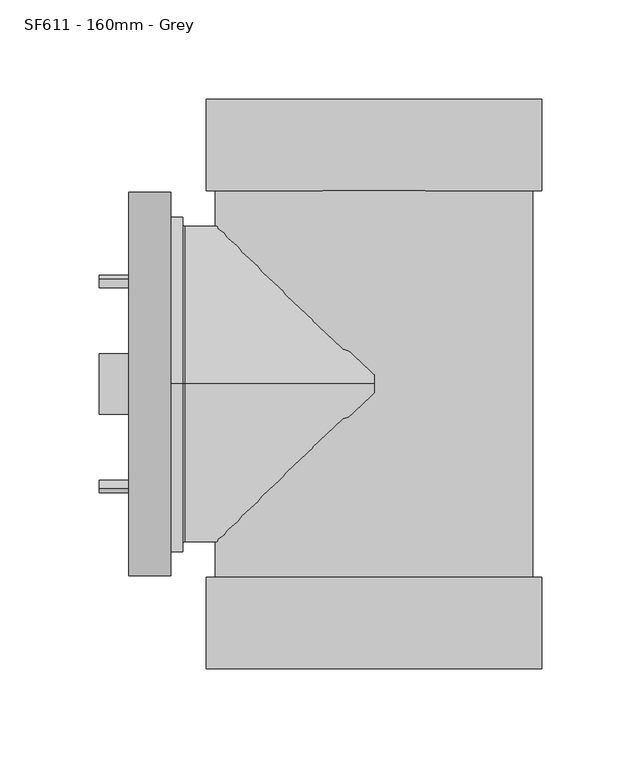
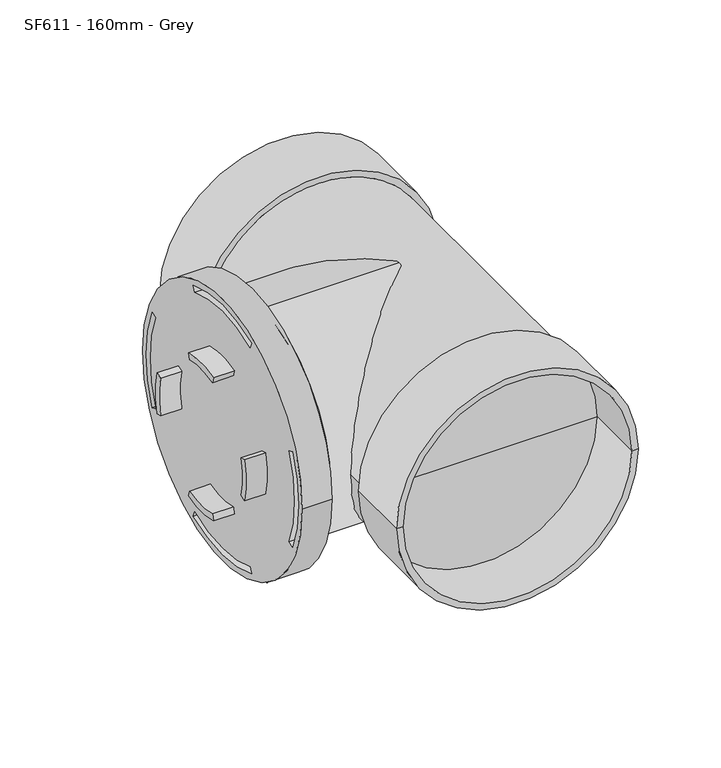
"""IFC4 building model written with IfcOpenShell, lengths in millimetres: pipe fitting geometry, MarleyPlumbingAndDrainage_PipeFitting_AccessPipeDoubleSolvent : SF611 - 160mm - Grey."""

from ifc_helpers import new_model, si_unit, point, frame, origin, origin_2d, place, context, project, spatial, polyline, circle_curve, ellipse_curve, trimmed, segment, composite_curve, outline, extrude, source, transform, mapped, element, save
from ifc_brep_helpers import plane_surface, cylinder_surface, revolved_surface, advanced_brep


def sf611_160mm_grey_c065f74c(model_context):
    return source(origin(), model_context, "Body", "SolidModel", [
        advanced_brep(
        [(-125.0667881, 96.75, 0.0), (-125.0667881, -96.75, 0.0), (-125.0667881, 35.3025466, -85.2278869), (-125.0667881, 33.5804712, -81.070429), (-125.0667881, -33.5804712, -81.070429), (-125.0667881, -35.3025466, -85.2278869), (-125.0667881, -85.2278869, -35.3025466), (-125.0667881, -81.070429, -33.5804712), (-125.0667881, -81.070429, 33.5804712), (-125.0667881, -85.2278869, 35.3025466), (-125.0667881, 81.070429, 33.5804712), (-125.0667881, 81.070429, -33.5804712), (-125.0667881, 85.2278869, -35.3025466), (-125.0667881, 85.2278869, 35.3025466), (-125.0667881, 33.5804712, 81.070429), (-125.0667881, 35.3025466, 85.2278869), (-125.0667881, -35.3025466, 85.2278869), (-125.0667881, -33.5804712, 81.070429), (-104.0667881, 96.75, 0.0), (-104.0667881, -96.75, 0.0), (-104.0667881, 0.0, -84.5), (-104.0667881, 0.0, 84.5), (-118.3600703, 33.5804712, -81.070429), (-118.3600703, 35.3025466, -85.2278869), (-118.3600703, -35.3025466, -85.2278869), (-118.3600703, -33.5804712, -81.070429), (-118.3600703, -81.070429, -33.5804712), (-118.3600703, -85.2278869, -35.3025466), (-118.3600703, -85.2278869, 35.3025466), (-118.3600703, -81.070429, 33.5804712), (-118.3600703, 81.070429, -33.5804712), (-118.3600703, 81.070429, 33.5804712), (-118.3600703, 85.2278869, 35.3025466), (-118.3600703, 85.2278869, -35.3025466), (-118.3600703, 35.3025466, 85.2278869), (-118.3600703, 33.5804712, 81.070429), (-118.3600703, -33.5804712, 81.070429), (-118.3600703, -35.3025466, 85.2278869), (-98.0667881, 0.0, -84.5), (-98.0667881, 0.0, 84.5), (-98.0667881, 0.0, -81.0), (-98.0667881, 0.0, 81.0), (-97.0667881, 0.0, -80.0), (-97.0667881, 0.0, 80.0), (-1.5667881, 0.0, -80.0), (-1.5667881, 0.0, 80.0), (-1.5667881, 0.0, 0.0)],
        [
            (0, 1, circle_curve(frame((-125.0667881, 0.0, 0.0), z_axis=(-1.0, 0.0, 0.0), x_axis=(0.0, -1.0000000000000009, 0.0)), 96.75)),
            (1, 0, circle_curve(frame((-125.0667881, 0.0, 0.0), z_axis=(-1.0, 0.0, 0.0), x_axis=(0.0, -1.0000000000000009, 0.0)), 96.75)),
            (2, 3),
            (3, 4, circle_curve(frame((-125.0667881, 0.0, 0.0), z_axis=(-1.0, 0.0, 0.0), x_axis=(0.0, -1.0000000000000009, 0.0)), 87.75)),
            (4, 5),
            (5, 2, circle_curve(frame((-125.0667881, 0.0, 0.0), z_axis=(1.0, 0.0, 0.0), x_axis=(0.0, -1.0000000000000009, 0.0)), 92.25)),
            (6, 7),
            (7, 8, circle_curve(frame((-125.0667881, 0.0, 0.0), z_axis=(-1.0, 0.0, 0.0), x_axis=(0.0, -1.0000000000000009, 0.0)), 87.75)),
            (8, 9),
            (9, 6, circle_curve(frame((-125.0667881, 0.0, 0.0), z_axis=(1.0, 0.0, 0.0), x_axis=(0.0, -1.0000000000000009, 0.0)), 92.25)),
            (10, 11, circle_curve(frame((-125.0667881, 0.0, 0.0), z_axis=(-1.0, 0.0, 0.0), x_axis=(0.0, -1.0000000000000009, 0.0)), 87.75)),
            (11, 12),
            (12, 13, circle_curve(frame((-125.0667881, 0.0, 0.0), z_axis=(1.0, 0.0, 0.0), x_axis=(0.0, -1.0000000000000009, 0.0)), 92.25)),
            (13, 10),
            (14, 15),
            (15, 16, circle_curve(frame((-125.0667881, 0.0, 0.0), z_axis=(1.0, 0.0, 0.0), x_axis=(0.0, -1.0000000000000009, 0.0)), 92.25)),
            (16, 17),
            (17, 14, circle_curve(frame((-125.0667881, 0.0, 0.0), z_axis=(-1.0, 0.0, 0.0), x_axis=(0.0, -1.0000000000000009, 0.0)), 87.75)),
            (18, 19, circle_curve(frame((-104.0667881, 0.0, 0.0), z_axis=(1.0, 0.0, 0.0), x_axis=(0.0, -1.0000000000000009, 0.0)), 96.75)),
            (19, 18, circle_curve(frame((-104.0667881, 0.0, 0.0), z_axis=(1.0, 0.0, 0.0), x_axis=(0.0, -1.0000000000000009, 0.0)), 96.75)),
            (20, 21, circle_curve(frame((-104.0667881, 0.0, 0.0), z_axis=(-1.0, 0.0, 0.0), x_axis=(0.0, 0.0, 1.0000000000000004)), 84.5)),
            (21, 20, circle_curve(frame((-104.0667881, 0.0, 0.0), z_axis=(-1.0, 0.0, 0.0), x_axis=(0.0, 0.0, 1.0000000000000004)), 84.5)),
            (0, 18),
            (19, 1),
            (22, 23),
            (23, 24, circle_curve(frame((-118.3600703, 0.0, 0.0), z_axis=(-1.0, 0.0, 0.0), x_axis=(0.0, -1.0000000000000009, 0.0)), 92.25)),
            (24, 25),
            (25, 22, circle_curve(frame((-118.3600703, 0.0, 0.0), z_axis=(1.0, 0.0, 0.0), x_axis=(0.0, -1.0000000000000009, 0.0)), 87.75)),
            (26, 27),
            (27, 28, circle_curve(frame((-118.3600703, 0.0, 0.0), z_axis=(-1.0, 0.0, 0.0), x_axis=(0.0, -1.0000000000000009, 0.0)), 92.25)),
            (28, 29),
            (29, 26, circle_curve(frame((-118.3600703, 0.0, 0.0), z_axis=(1.0, 0.0, 0.0), x_axis=(0.0, -1.0000000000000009, 0.0)), 87.75)),
            (30, 31, circle_curve(frame((-118.3600703, 0.0, 0.0), z_axis=(1.0, 0.0, 0.0), x_axis=(0.0, -1.0000000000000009, 0.0)), 87.75)),
            (31, 32),
            (32, 33, circle_curve(frame((-118.3600703, 0.0, 0.0), z_axis=(-1.0, 0.0, 0.0), x_axis=(0.0, -1.0000000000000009, 0.0)), 92.25)),
            (33, 30),
            (34, 35),
            (35, 36, circle_curve(frame((-118.3600703, 0.0, 0.0), z_axis=(1.0, 0.0, 0.0), x_axis=(0.0, -1.0000000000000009, 0.0)), 87.75)),
            (36, 37),
            (37, 34, circle_curve(frame((-118.3600703, 0.0, 0.0), z_axis=(-1.0, 0.0, 0.0), x_axis=(0.0, -1.0000000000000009, 0.0)), 92.25)),
            (22, 3),
            (2, 23),
            (5, 24),
            (4, 25),
            (26, 7),
            (6, 27),
            (9, 28),
            (8, 29),
            (30, 11),
            (10, 31),
            (13, 32),
            (12, 33),
            (34, 15),
            (14, 35),
            (17, 36),
            (16, 37),
            (38, 39, circle_curve(frame((-98.0667881, 0.0, 0.0), z_axis=(-1.0, 0.0, 0.0), x_axis=(0.0, 0.0, 1.0000000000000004)), 84.5)),
            (39, 21),
            (20, 38),
            (39, 38, circle_curve(frame((-98.0667881, 0.0, 0.0), z_axis=(-1.0, 0.0, 0.0), x_axis=(0.0, 0.0, 1.0000000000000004)), 84.5)),
            (38, 40),
            (40, 41, circle_curve(frame((-98.0667881, 0.0, 0.0), z_axis=(-1.0, 0.0, 0.0), x_axis=(0.0, 0.0, 1.0000000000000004)), 81.0)),
            (41, 39),
            (41, 40, circle_curve(frame((-98.0667881, 0.0, 0.0), z_axis=(-1.0, 0.0, 0.0), x_axis=(0.0, 0.0, 1.0000000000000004)), 81.0)),
            (40, 42, circle_curve(frame((-97.0667881, 0.0, -81.0), z_axis=(0.0, 1.0000000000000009, 0.0), x_axis=(-1.0000000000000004, 0.0, 0.0)), 1.0)),
            (42, 43, circle_curve(frame((-97.0667881, 0.0, 0.0), z_axis=(-1.0, 0.0, 0.0), x_axis=(0.0, 0.0, 1.0000000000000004)), 80.0)),
            (43, 41, circle_curve(frame((-97.0667881, 0.0, 81.0), z_axis=(0.0, 1.0000000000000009, 0.0), x_axis=(-1.0000000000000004, 0.0, 0.0)), 1.0)),
            (43, 42, circle_curve(frame((-97.0667881, 0.0, 0.0), z_axis=(-1.0, 0.0, 0.0), x_axis=(0.0, 0.0, 1.0000000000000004)), 80.0)),
            (42, 44),
            (44, 45, circle_curve(frame((-1.5667881, 0.0, 0.0), z_axis=(-1.0, 0.0, 0.0), x_axis=(0.0, 0.0, 1.0000000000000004)), 80.0)),
            (45, 43),
            (45, 44, circle_curve(frame((-1.5667881, 0.0, 0.0), z_axis=(-1.0, 0.0, 0.0), x_axis=(0.0, 0.0, 1.0000000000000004)), 80.0)),
            (44, 46),
            (46, 45),
        ],
        [
            plane_surface(frame((-125.0667881, -96.75, 0.0), z_axis=(-1.0, 0.0, 0.0), x_axis=(0.0, 0.0, 1.0))),
            plane_surface(frame((-104.0667881, -96.75, 0.0), z_axis=(1.0, 0.0, 0.0), x_axis=(0.0, 0.0, -1.0))),
            cylinder_surface(frame((-104.0667881, 0.0, 0.0), z_axis=(-1.0000000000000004, 0.0, 0.0), x_axis=(0.0, -1.0000000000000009, 0.0)), 96.75),
            plane_surface(frame((-118.3600703, 35.3025466, -85.2278869), z_axis=(-1.0, 0.0, 0.0), x_axis=(0.0, -0.3826834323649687, 0.923879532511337))),
            plane_surface(frame((-125.0667881, 33.5804712, -81.070429), z_axis=(0.0, -0.923879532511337, -0.3826834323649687), x_axis=(1.0, 0.0, 0.0))),
            revolved_surface(polyline([(-125.0667881, -92.25000000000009, 0.0), (-118.3600703, -92.25000000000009, 0.0)]), (-118.3600703, 0.0, 0.0), (-1.0000000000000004, 0.0, 0.0)),
            plane_surface(frame((-125.0667881, -35.3025466, -85.2278869), z_axis=(0.0, 0.923879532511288, -0.38268343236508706), x_axis=(1.0, 0.0, 0.0))),
            cylinder_surface(frame((-118.3600703, 0.0, 0.0), z_axis=(1.0000000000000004, 0.0, 0.0), x_axis=(0.0, -1.0000000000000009, 0.0)), 87.75),
            plane_surface(frame((-125.0667881, -81.070429, -33.5804712), z_axis=(0.0, -0.3826834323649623, 0.9238795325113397), x_axis=(1.0, 0.0, 0.0))),
            revolved_surface(polyline([(-125.06678810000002, -92.25000000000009, 0.0), (-118.36007030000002, -92.25000000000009, 0.0)]), (-104.0667881, 0.0, 0.0), (-1.0000000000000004, 0.0, 0.0)),
            plane_surface(frame((-125.0667881, -85.2278869, 35.3025466), z_axis=(0.0, -0.3826834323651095, -0.9238795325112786), x_axis=(1.0, 0.0, 0.0))),
            cylinder_surface(frame((-104.0667881, 0.0, 0.0), z_axis=(1.0000000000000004, 0.0, 0.0), x_axis=(0.0, -1.0000000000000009, 0.0)), 87.75),
            plane_surface(frame((-125.0667881, 81.070429, 33.5804712), z_axis=(0.0, 0.38268343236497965, -0.9238795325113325), x_axis=(1.0, 0.0, 0.0))),
            plane_surface(frame((-125.0667881, 85.2278869, -35.3025466), z_axis=(0.0, 0.3826834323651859, 0.923879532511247), x_axis=(1.0, 0.0, 0.0))),
            plane_surface(frame((-125.0667881, 35.3025466, 85.2278869), z_axis=(0.0, -0.923879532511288, 0.38268343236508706), x_axis=(1.0, 0.0, 0.0))),
            plane_surface(frame((-125.0667881, -33.5804712, 81.070429), z_axis=(0.0, 0.9238795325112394, 0.38268343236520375), x_axis=(1.0, 0.0, 0.0))),
            cylinder_surface(frame((1156.7773579, 0.0, 0.0), z_axis=(1.0000000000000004, 0.0, 0.0), x_axis=(0.0, 0.0, 1.0000000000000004)), 84.5),
            plane_surface(frame((-98.0667881, 0.0, 0.0), z_axis=(1.0, 0.0, 0.0), x_axis=(0.0, 0.0, 1.0))),
            revolved_surface(trimmed(ellipse_curve(frame((-97.0667881, 0.0, 81.0), z_axis=(0.0, -1.0000000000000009, 0.0), x_axis=(-1.0000000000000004, 0.0, 0.0)), 1.0, 1.0), [point((-98.0667881, 0.0, 81.0))], [point((-97.0667881, 0.0, 80.0))], True, "CARTESIAN"), (1156.7773579, 0.0, 0.0), (1.0000000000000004, 0.0, 0.0)),
            cylinder_surface(frame((1156.7773579, 0.0, 0.0), z_axis=(1.0000000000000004, 0.0, 0.0), x_axis=(0.0, 0.0, 1.0000000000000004)), 80.0),
            plane_surface(frame((-1.5667881, 0.0, 0.0), z_axis=(1.0, 0.0, 0.0), x_axis=(0.0, 0.0, 1.0))),
        ],
        [
            (0, [[1, 2], [3, 4, 5, 6], [7, 8, 9, 10], [11, 12, 13, 14], [15, 16, 17, 18]]),
            (1, [[19, 20], [21, 22]]),
            (2, [[-1, 23, -20, 24]]),
            (2, [[-2, -24, -19, -23]]),
            (3, [[25, 26, 27, 28]]),
            (3, [[29, 30, 31, 32]]),
            (3, [[33, 34, 35, 36]]),
            (3, [[37, 38, 39, 40]]),
            (4, [[-25, 41, -3, 42]]),
            (5, [[-26, -42, -6, 43]]),
            (6, [[-27, -43, -5, 44]]),
            (7, [[-28, -44, -4, -41]]),
            (8, [[-29, 45, -7, 46]]),
            (9, [[-30, -46, -10, 47]]),
            (10, [[-31, -47, -9, 48]]),
            (11, [[-32, -48, -8, -45]]),
            (11, [[-33, 49, -11, 50]]),
            (12, [[-34, -50, -14, 51]]),
            (9, [[-35, -51, -13, 52]]),
            (13, [[-36, -52, -12, -49]]),
            (14, [[-37, 53, -15, 54]]),
            (11, [[-38, -54, -18, 55]]),
            (15, [[-39, -55, -17, 56]]),
            (9, [[-40, -56, -16, -53]]),
            (16, [[57, 58, -21, 59]]),
            (16, [[-58, 60, -59, -22]]),
            (17, [[-57, 61, 62, 63]]),
            (17, [[-60, -63, 64, -61]]),
            (18, [[-62, 65, 66, 67]]),
            (18, [[-64, -67, 68, -65]]),
            (19, [[-66, 69, 70, 71]]),
            (19, [[-68, -71, 72, -69]]),
            (20, [[-70, 73, 74]]),
            (20, [[-72, -74, -73]]),
        ],
    ),
        extrude(outline(composite_curve([segment(polyline([(-13.9196865, 48.5437156), (-15.1600546, 52.8693933)]), True, "CONTINUOUS"), segment(trimmed(circle_curve(origin_2d(), 55.0), [point((-15.1600546, 52.8693933))], [point((15.1600546, 52.8693933))], False, "CARTESIAN"), True, "CONTINUOUS"), segment(polyline([(15.1600546, 52.8693933), (13.9196865, 48.5437156)]), True, "CONTINUOUS"), segment(trimmed(circle_curve(origin_2d(), 50.5), [point((13.9196865, 48.5437156))], [point((-13.9196865, 48.5437156))], True, "CARTESIAN"), True, "CONTINUOUS")], self_intersect=False)), frame((-140.0667881, 0.0, 0.0), z_axis=(1.0, 0.0, 0.0), x_axis=(0.0, 1.0, 0.0)), (0.0, 0.0, 1.0), 15.0),
        extrude(outline(composite_curve([segment(polyline([(48.5437156, 13.9196865), (52.8693933, 15.1600546)]), True, "CONTINUOUS"), segment(trimmed(circle_curve(origin_2d(), 55.0), [point((52.8693933, 15.1600546))], [point((52.8693933, -15.1600546))], False, "CARTESIAN"), True, "CONTINUOUS"), segment(polyline([(52.8693933, -15.1600546), (48.5437156, -13.9196865)]), True, "CONTINUOUS"), segment(trimmed(circle_curve(origin_2d(), 50.5), [point((48.5437156, -13.9196865))], [point((48.5437156, 13.9196865))], True, "CARTESIAN"), True, "CONTINUOUS")], self_intersect=False)), frame((-140.0667881, 0.0, 0.0), z_axis=(1.0, 0.0, 0.0), x_axis=(0.0, 1.0, 0.0)), (0.0, 0.0, 1.0), 15.0),
        extrude(outline(composite_curve([segment(trimmed(circle_curve(origin_2d(), 50.5), [point((-48.5437156, 13.9196865))], [point((-48.5437156, -13.9196865))], True, "CARTESIAN"), True, "CONTINUOUS"), segment(polyline([(-48.5437156, -13.9196865), (-52.8693933, -15.1600546)]), True, "CONTINUOUS"), segment(trimmed(circle_curve(origin_2d(), 55.0), [point((-52.8693933, -15.1600546))], [point((-52.8693933, 15.1600546))], False, "CARTESIAN"), True, "CONTINUOUS"), segment(polyline([(-52.8693933, 15.1600546), (-48.5437156, 13.9196865)]), True, "CONTINUOUS")], self_intersect=False)), frame((-140.0667881, 0.0, 0.0), z_axis=(1.0, 0.0, 0.0), x_axis=(0.0, 1.0, 0.0)), (0.0, 0.0, 1.0), 15.0),
        extrude(outline(composite_curve([segment(polyline([(-15.1600546, -52.8693933), (-13.9196865, -48.5437156)]), True, "CONTINUOUS"), segment(trimmed(circle_curve(origin_2d(), 50.5), [point((-13.9196865, -48.5437156))], [point((13.9196865, -48.5437156))], True, "CARTESIAN"), True, "CONTINUOUS"), segment(polyline([(13.9196865, -48.5437156), (15.1600546, -52.8693933)]), True, "CONTINUOUS"), segment(trimmed(circle_curve(origin_2d(), 55.0), [point((15.1600546, -52.8693933))], [point((-15.1600546, -52.8693933))], False, "CARTESIAN"), True, "CONTINUOUS")], self_intersect=False)), frame((-140.0667881, 0.0, 0.0), z_axis=(1.0, 0.0, 0.0), x_axis=(0.0, 1.0, 0.0)), (0.0, 0.0, 1.0), 15.0),
        advanced_brep(
        [(82.9332119, 97.5, 0.0), (-86.0667881, 97.5, 0.0), (-86.0667881, 143.5, 0.0), (82.9332119, 143.5, 0.0), (78.4332119, 97.5, 0.0), (-81.5667881, 97.5, 0.0), (78.4332119, -97.5, 0.0), (-81.5667881, -97.5, 0.0), (82.9332119, -97.5, 0.0), (-86.0667881, -97.5, 0.0), (82.9332119, -143.5, 0.0), (-86.0667881, -143.5, 0.0), (78.4332119, -143.5, 0.0), (-81.5667881, -143.5, 0.0), (-81.5667881, 143.5, 0.0), (78.4332119, 143.5, 0.0), (78.4332119, -102.0, 0.0), (-81.5667881, -102.0, 0.0), (-1.5667881, -102.0, 0.0), (78.4332119, 102.0, 0.0), (-81.5667881, 102.0, 0.0), (-1.5667881, 102.0, 0.0)],
        [
            (0, 1, circle_curve(frame((-1.5667881, 97.5, 0.0), z_axis=(0.0, 1.0, 0.0), x_axis=(-1.0, 0.0, 0.0)), 84.5)),
            (1, 2),
            (2, 3, circle_curve(frame((-1.5667881, 143.5, 0.0), z_axis=(0.0, -1.0, 0.0), x_axis=(-1.0, 0.0, 0.0)), 84.5)),
            (3, 0),
            (1, 0, circle_curve(frame((-1.5667881, 97.5, 0.0), z_axis=(0.0, 1.0, 0.0), x_axis=(-1.0, 0.0, 0.0)), 84.5)),
            (3, 2, circle_curve(frame((-1.5667881, 143.5, 0.0), z_axis=(0.0, -1.0, 0.0), x_axis=(-1.0, 0.0, 0.0)), 84.5)),
            (4, 5, circle_curve(frame((-1.5667881, 97.5, 0.0), z_axis=(0.0, 1.0, 0.0), x_axis=(-1.0, 0.0, 0.0)), 80.0)),
            (5, 1),
            (0, 4),
            (5, 4, circle_curve(frame((-1.5667881, 97.5, 0.0), z_axis=(0.0, 1.0, 0.0), x_axis=(-1.0, 0.0, 0.0)), 80.0)),
            (6, 7, circle_curve(frame((-1.5667881, -97.5, 0.0), z_axis=(0.0, 1.0, 0.0), x_axis=(-1.0, 0.0, 0.0)), 80.0)),
            (7, 5),
            (4, 6),
            (7, 6, circle_curve(frame((-1.5667881, -97.5, 0.0), z_axis=(0.0, 1.0, 0.0), x_axis=(-1.0, 0.0, 0.0)), 80.0)),
            (8, 9, circle_curve(frame((-1.5667881, -97.5, 0.0), z_axis=(0.0, 1.0, 0.0), x_axis=(-1.0, 0.0, 0.0)), 84.5)),
            (9, 7),
            (6, 8),
            (9, 8, circle_curve(frame((-1.5667881, -97.5, 0.0), z_axis=(0.0, 1.0, 0.0), x_axis=(-1.0, 0.0, 0.0)), 84.5)),
            (10, 11, circle_curve(frame((-1.5667881, -143.5, 0.0), z_axis=(0.0, 1.0, 0.0), x_axis=(-1.0, 0.0, 0.0)), 84.5)),
            (11, 9),
            (8, 10),
            (11, 10, circle_curve(frame((-1.5667881, -143.5, 0.0), z_axis=(0.0, 1.0, 0.0), x_axis=(-1.0, 0.0, 0.0)), 84.5)),
            (12, 13, circle_curve(frame((-1.5667881, -143.5, 0.0), z_axis=(0.0, 1.0, 0.0), x_axis=(-1.0, 0.0, 0.0)), 80.0)),
            (13, 11),
            (10, 12),
            (13, 12, circle_curve(frame((-1.5667881, -143.5, 0.0), z_axis=(0.0, 1.0, 0.0), x_axis=(-1.0, 0.0, 0.0)), 80.0)),
            (2, 14),
            (14, 15, circle_curve(frame((-1.5667881, 143.5, 0.0), z_axis=(0.0, -1.0, 0.0), x_axis=(-1.0, 0.0, 0.0)), 80.0)),
            (15, 3),
            (15, 14, circle_curve(frame((-1.5667881, 143.5, 0.0), z_axis=(0.0, -1.0, 0.0), x_axis=(-1.0, 0.0, 0.0)), 80.0)),
            (16, 17, circle_curve(frame((-1.5667881, -102.0, 0.0), z_axis=(0.0, 1.0, 0.0), x_axis=(-1.0, 0.0, 0.0)), 80.0)),
            (17, 13),
            (12, 16),
            (17, 16, circle_curve(frame((-1.5667881, -102.0, 0.0), z_axis=(0.0, 1.0, 0.0), x_axis=(-1.0, 0.0, 0.0)), 80.0)),
            (18, 17),
            (16, 18),
            (19, 20, circle_curve(frame((-1.5667881, 102.0, 0.0), z_axis=(0.0, 1.0, 0.0), x_axis=(-1.0, 0.0, 0.0)), 80.0)),
            (20, 21),
            (21, 19),
            (20, 19, circle_curve(frame((-1.5667881, 102.0, 0.0), z_axis=(0.0, 1.0, 0.0), x_axis=(-1.0, 0.0, 0.0)), 80.0)),
            (14, 20),
            (19, 15),
        ],
        [
            cylinder_surface(frame((-1.5667881, 2000.0, 0.0), z_axis=(0.0, -1.0, 0.0), x_axis=(-1.0, 0.0, 0.0)), 84.5),
            plane_surface(frame((-1.5667881, 97.5, 0.0), z_axis=(0.0, -1.0, 0.0), x_axis=(-1.0, 0.0, 0.0))),
            cylinder_surface(frame((-1.5667881, 2000.0, 0.0), z_axis=(0.0, -1.0, 0.0), x_axis=(-1.0, 0.0, 0.0)), 80.0),
            plane_surface(frame((-1.5667881, -97.5, 0.0), z_axis=(0.0, 1.0, 0.0), x_axis=(-1.0, 0.0, 0.0))),
            plane_surface(frame((-1.5667881, -143.5, 0.0), z_axis=(0.0, -1.0, 0.0), x_axis=(-1.0, 0.0, 0.0))),
            plane_surface(frame((-1.5667881, 143.5, 0.0), z_axis=(0.0, 1.0, 0.0), x_axis=(-1.0, 0.0, 0.0))),
            revolved_surface(polyline([(-81.5667881, -143.5, 0.0), (-81.5667881, -102.0, 0.0)]), (-1.5667881, 2000.0, 0.0), (0.0, -1.0, 0.0)),
            plane_surface(frame((-1.5667881, -102.0, 0.0), z_axis=(0.0, -1.0, 0.0), x_axis=(-1.0, 0.0, 0.0))),
            plane_surface(frame((-1.5667881, 102.0, 0.0), z_axis=(0.0, 1.0, 0.0), x_axis=(-1.0, 0.0, 0.0))),
            revolved_surface(polyline([(-81.5667881, 102.0, 0.0), (-81.5667881, 143.5, 0.0)]), (-1.5667881, 2000.0, 0.0), (0.0, -1.0, 0.0)),
        ],
        [
            (0, [[1, 2, 3, 4]]),
            (0, [[5, -4, 6, -2]]),
            (1, [[7, 8, -1, 9]]),
            (1, [[10, -9, -5, -8]]),
            (2, [[11, 12, -7, 13]]),
            (2, [[14, -13, -10, -12]]),
            (3, [[15, 16, -11, 17]]),
            (3, [[18, -17, -14, -16]]),
            (0, [[19, 20, -15, 21]]),
            (0, [[22, -21, -18, -20]]),
            (4, [[23, 24, -19, 25]]),
            (4, [[26, -25, -22, -24]]),
            (5, [[-3, 27, 28, 29]]),
            (5, [[-6, -29, 30, -27]]),
            (6, [[31, 32, -23, 33]]),
            (6, [[34, -33, -26, -32]]),
            (7, [[35, -31, 36]]),
            (7, [[-36, -34, -35]]),
            (8, [[37, 38, 39]]),
            (8, [[40, -39, -38]]),
            (9, [[-28, 41, -37, 42]]),
            (9, [[-30, -42, -40, -41]]),
        ],
    ),
    ])


if __name__ == "__main__":
    model = new_model("IFC4")
    model_context = context("Model", 3, world=origin())
    ifc_project = project(units=[si_unit("LENGTHUNIT", "METRE", prefix="MILLI")], contexts=[model_context])
    site = spatial("IfcSite", under=ifc_project)
    building = spatial("IfcBuilding", under=site)
    placement = place(None, origin())
    sf611_160mm_grey_shape = sf611_160mm_grey_c065f74c(model_context)
    element("IfcPipeFitting", 1, ObjectType="MarleyPlumbingAndDrainage_PipeFitting_AccessPipeDoubleSolvent : SF611 - 160mm - Grey", at=placement, inside=building, context=model_context, shape_type="MappedRepresentation", body=[
        mapped(sf611_160mm_grey_shape, transform((0.0, 0.0, 0.0), x_axis=(1.0, 0.0, 0.0), y_axis=(0.0, 1.0, 0.0), z_axis=(0.0, 0.0, 1.0))),
    ])
    save(model, "model.ifc")
